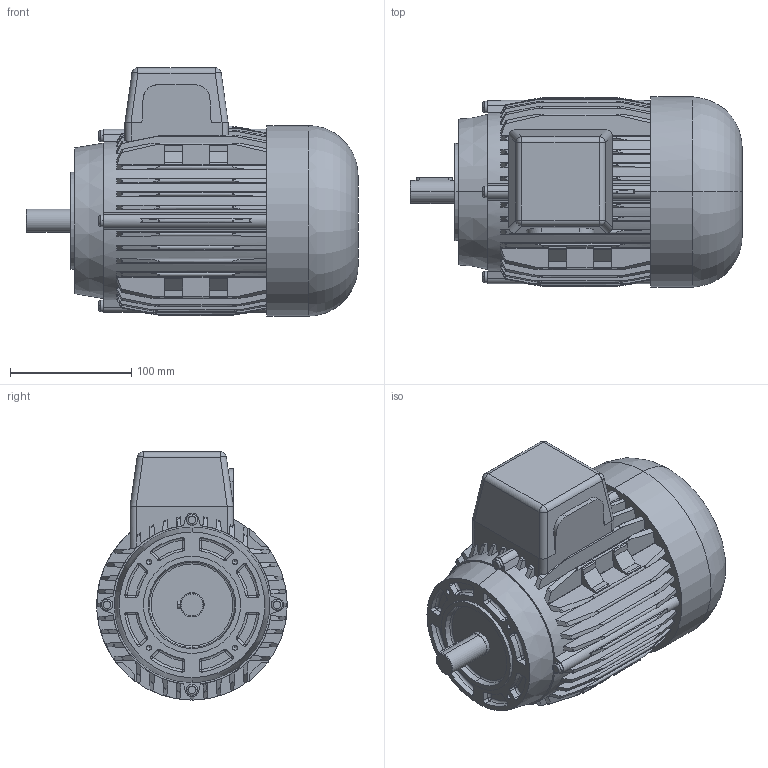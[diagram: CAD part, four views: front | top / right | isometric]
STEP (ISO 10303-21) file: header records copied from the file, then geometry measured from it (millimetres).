
FILE_DESCRIPTION(('OneSpaceDesigner STEP Export'),'2;1');
FILE_NAME('OD8_B14_FT100.stp','2008-04-24T13:27:41',(''),(''),'OneSpace Designer STEP processor (Jan. 2003) for AP214(CD)(Solid Model)','OneSpace Designer 12.01D 09-Jul-2004 (C) CoCreate Software GmbH','');
FILE_SCHEMA(('AUTOMOTIVE_DESIGN_CC2 {1 2 10303 214 -1 1 5 1}'));
Products named in the file (2): OD8_B14_FT100
Assembly tree (1 placements, depth 2):
  OD8_B14_FT100
    OD8_B14_FT100
Bounding box: 273.5 x 157 x 204.5 mm (x, y, z)
Volume: 4020024 mm3; surface area: 239699.2 mm2
Topology: 1 solids, 1 shells, 672 faces, 1828 edges, 1143 vertices
Faces by surface type: cylinder 214, plane 209, cone 137, torus 60, sphere 52
Entity records: 44279 total; most frequent: CARTESIAN_POINT 28786, ORIENTED_EDGE 3568, DIRECTION 2657, EDGE_CURVE 1784, VERTEX_POINT 1143, AXIS2_PLACEMENT_3D 992, EDGE_LOOP 701, VECTOR 673
